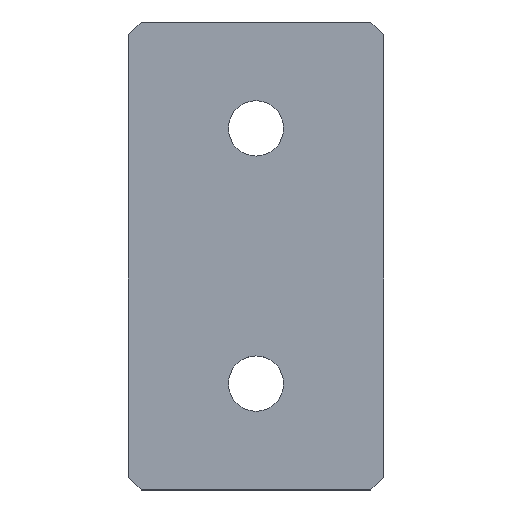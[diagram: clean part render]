
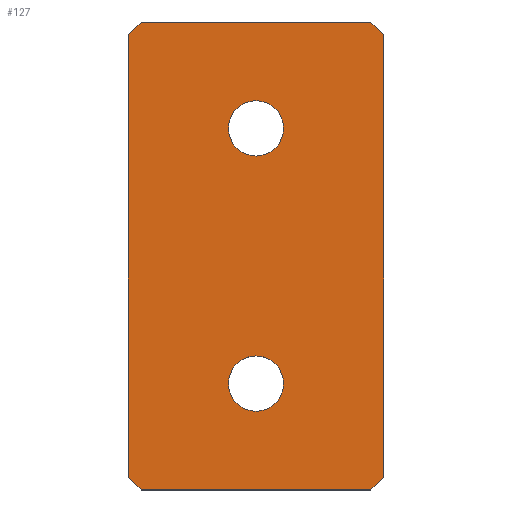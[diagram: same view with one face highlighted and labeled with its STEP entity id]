
A CAD part, top view. The second image highlights one B-rep face of the part: STEP entity #127.
In plain terms, the highlighted planar face has unit normal (0, 0, 1).
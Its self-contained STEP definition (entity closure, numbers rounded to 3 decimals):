
#5 = FACE_BOUND ( 'NONE', #201, .T. ) ;
#6 = CARTESIAN_POINT ( 'NONE',  ( -13.5, -27.5, 3. ) ) ;
#16 = CARTESIAN_POINT ( 'NONE',  ( -15., -27.5, 3. ) ) ;
#18 = EDGE_LOOP ( 'NONE', ( #292, #282, #173, #21, #163, #149, #208, #318 ) ) ;
#19 = VECTOR ( 'NONE', #277, 1000. ) ;
#20 = CARTESIAN_POINT ( 'NONE',  ( 0., 15., 3. ) ) ;
#21 = ORIENTED_EDGE ( 'NONE', *, *, #38, .T. ) ;
#32 = VERTEX_POINT ( 'NONE', #385 ) ;
#35 = VECTOR ( 'NONE', #125, 1000. ) ;
#38 = EDGE_CURVE ( 'NONE', #167, #371, #306, .T. ) ;
#39 = LINE ( 'NONE', #96, #35 ) ;
#47 = VECTOR ( 'NONE', #61, 1000. ) ;
#53 = DIRECTION ( 'NONE',  ( 0., -1., 0. ) ) ;
#54 = VERTEX_POINT ( 'NONE', #302 ) ;
#55 = AXIS2_PLACEMENT_3D ( 'NONE', #122, #335, #366 ) ;
#61 = DIRECTION ( 'NONE',  ( 0., 1., 0. ) ) ;
#63 = VERTEX_POINT ( 'NONE', #6 ) ;
#69 = CIRCLE ( 'NONE', #55, 3.25 ) ;
#74 = EDGE_CURVE ( 'NONE', #194, #63, #157, .T. ) ;
#78 = DIRECTION ( 'NONE',  ( 1., 0., 0. ) ) ;
#81 = VERTEX_POINT ( 'NONE', #307 ) ;
#82 = LINE ( 'NONE', #106, #368 ) ;
#85 = VECTOR ( 'NONE', #283, 1000. ) ;
#86 = LINE ( 'NONE', #322, #47 ) ;
#87 = EDGE_CURVE ( 'NONE', #32, #32, #69, .T. ) ;
#96 = CARTESIAN_POINT ( 'NONE',  ( 41.75, 0.75, 3. ) ) ;
#106 = CARTESIAN_POINT ( 'NONE',  ( 0.75, 41.75, 3. ) ) ;
#116 = EDGE_CURVE ( 'NONE', #54, #223, #39, .T. ) ;
#120 = VERTEX_POINT ( 'NONE', #237 ) ;
#122 = CARTESIAN_POINT ( 'NONE',  ( 0., -15., 3. ) ) ;
#125 = DIRECTION ( 'NONE',  ( 0.707, 0.707, 0. ) ) ;
#127 = ADVANCED_FACE ( 'NONE', ( #5, #128, #246 ), #346, .T. ) ;
#128 = FACE_BOUND ( 'NONE', #159, .T. ) ;
#134 = LINE ( 'NONE', #162, #386 ) ;
#141 = EDGE_CURVE ( 'NONE', #63, #54, #196, .T. ) ;
#149 = ORIENTED_EDGE ( 'NONE', *, *, #184, .T. ) ;
#150 = EDGE_CURVE ( 'NONE', #376, #194, #375, .T. ) ;
#157 = LINE ( 'NONE', #332, #19 ) ;
#159 = EDGE_LOOP ( 'NONE', ( #316 ) ) ;
#161 = CIRCLE ( 'NONE', #269, 3.25 ) ;
#162 = CARTESIAN_POINT ( 'NONE',  ( 15., 27.5, 3. ) ) ;
#163 = ORIENTED_EDGE ( 'NONE', *, *, #195, .T. ) ;
#164 = DIRECTION ( 'NONE',  ( 0., 0., 1. ) ) ;
#167 = VERTEX_POINT ( 'NONE', #370 ) ;
#169 = DIRECTION ( 'NONE',  ( -0.707, -0.707, 0. ) ) ;
#173 = ORIENTED_EDGE ( 'NONE', *, *, #305, .T. ) ;
#175 = CARTESIAN_POINT ( 'NONE',  ( -15., 26., 3. ) ) ;
#184 = EDGE_CURVE ( 'NONE', #81, #376, #82, .T. ) ;
#188 = DIRECTION ( 'NONE',  ( 0., 0., -1. ) ) ;
#193 = CARTESIAN_POINT ( 'NONE',  ( 15., -26., 3. ) ) ;
#194 = VERTEX_POINT ( 'NONE', #221 ) ;
#195 = EDGE_CURVE ( 'NONE', #371, #81, #134, .T. ) ;
#196 = LINE ( 'NONE', #377, #85 ) ;
#201 = EDGE_LOOP ( 'NONE', ( #267 ) ) ;
#208 = ORIENTED_EDGE ( 'NONE', *, *, #150, .T. ) ;
#211 = VECTOR ( 'NONE', #243, 1000. ) ;
#221 = CARTESIAN_POINT ( 'NONE',  ( -15., -26., 3. ) ) ;
#223 = VERTEX_POINT ( 'NONE', #193 ) ;
#224 = DIRECTION ( 'NONE',  ( -1., 0., 0. ) ) ;
#235 = EDGE_CURVE ( 'NONE', #120, #120, #161, .T. ) ;
#237 = CARTESIAN_POINT ( 'NONE',  ( -3.25, 15., 3. ) ) ;
#243 = DIRECTION ( 'NONE',  ( -0.707, 0.707, 0. ) ) ;
#246 = FACE_OUTER_BOUND ( 'NONE', #18, .T. ) ;
#255 = DIRECTION ( 'NONE',  ( -1., 0., 0. ) ) ;
#267 = ORIENTED_EDGE ( 'NONE', *, *, #87, .T. ) ;
#268 = CARTESIAN_POINT ( 'NONE',  ( 13.5, 27.5, 3. ) ) ;
#269 = AXIS2_PLACEMENT_3D ( 'NONE', #20, #188, #224 ) ;
#277 = DIRECTION ( 'NONE',  ( 0.707, -0.707, 0. ) ) ;
#279 = AXIS2_PLACEMENT_3D ( 'NONE', #315, #164, #78 ) ;
#282 = ORIENTED_EDGE ( 'NONE', *, *, #116, .T. ) ;
#283 = DIRECTION ( 'NONE',  ( 1., 0., 0. ) ) ;
#292 = ORIENTED_EDGE ( 'NONE', *, *, #141, .T. ) ;
#301 = CARTESIAN_POINT ( 'NONE',  ( 14.25, 26.75, 3. ) ) ;
#302 = CARTESIAN_POINT ( 'NONE',  ( 13.5, -27.5, 3. ) ) ;
#305 = EDGE_CURVE ( 'NONE', #223, #167, #86, .T. ) ;
#306 = LINE ( 'NONE', #301, #211 ) ;
#307 = CARTESIAN_POINT ( 'NONE',  ( -13.5, 27.5, 3. ) ) ;
#315 = CARTESIAN_POINT ( 'NONE',  ( 15., 27.5, 3. ) ) ;
#316 = ORIENTED_EDGE ( 'NONE', *, *, #235, .T. ) ;
#318 = ORIENTED_EDGE ( 'NONE', *, *, #74, .T. ) ;
#322 = CARTESIAN_POINT ( 'NONE',  ( 15., -27.5, 3. ) ) ;
#332 = CARTESIAN_POINT ( 'NONE',  ( -26.75, -14.25, 3. ) ) ;
#335 = DIRECTION ( 'NONE',  ( 0., 0., -1. ) ) ;
#346 = PLANE ( 'NONE',  #279 ) ;
#357 = VECTOR ( 'NONE', #53, 1000. ) ;
#366 = DIRECTION ( 'NONE',  ( -1., 0., 0. ) ) ;
#368 = VECTOR ( 'NONE', #169, 1000. ) ;
#370 = CARTESIAN_POINT ( 'NONE',  ( 15., 26., 3. ) ) ;
#371 = VERTEX_POINT ( 'NONE', #268 ) ;
#375 = LINE ( 'NONE', #16, #357 ) ;
#376 = VERTEX_POINT ( 'NONE', #175 ) ;
#377 = CARTESIAN_POINT ( 'NONE',  ( 15., -27.5, 3. ) ) ;
#385 = CARTESIAN_POINT ( 'NONE',  ( -3.25, -15., 3. ) ) ;
#386 = VECTOR ( 'NONE', #255, 1000. ) ;
